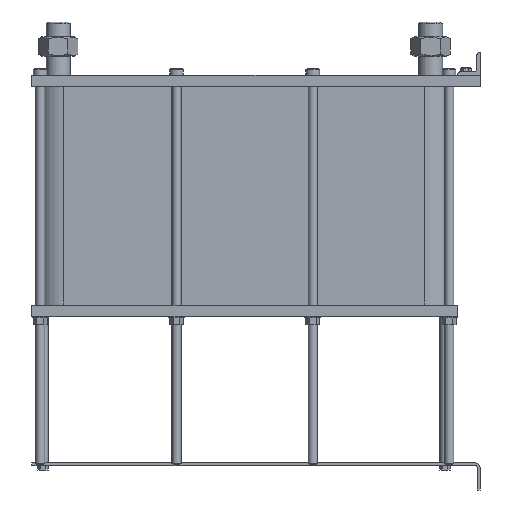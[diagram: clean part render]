
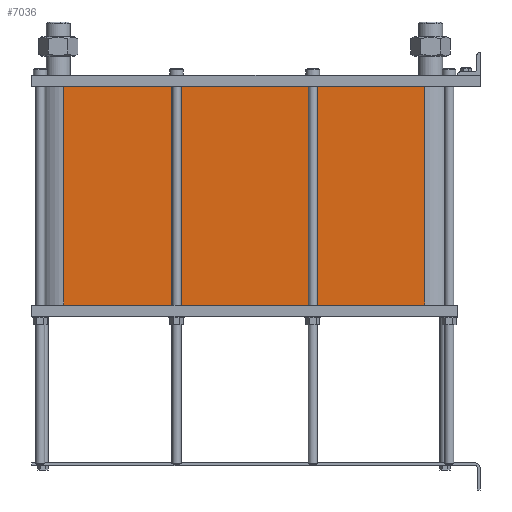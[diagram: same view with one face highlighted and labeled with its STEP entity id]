
A CAD part, left-side view. The second image highlights one B-rep face of the part: STEP entity #7036.
In plain terms, the highlighted planar face has unit normal (-1, 0, 0).
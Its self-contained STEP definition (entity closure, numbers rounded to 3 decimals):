
#999=LINE('',#15640,#1553);
#1031=LINE('',#15723,#1585);
#1032=LINE('',#15726,#1586);
#1033=LINE('',#15727,#1587);
#1553=VECTOR('',#9658,10.);
#1585=VECTOR('',#9736,10.);
#1586=VECTOR('',#9741,10.);
#1587=VECTOR('',#9742,10.);
#2117=FACE_OUTER_BOUND('',#2671,.T.);
#2671=EDGE_LOOP('',(#6246,#6247,#6248,#6249));
#3527=VERTEX_POINT('',#15634);
#3529=VERTEX_POINT('',#15638);
#3556=VERTEX_POINT('',#15720);
#3557=VERTEX_POINT('',#15722);
#4425=EDGE_CURVE('',#3529,#3527,#999,.T.);
#4466=EDGE_CURVE('',#3557,#3556,#1031,.T.);
#4468=EDGE_CURVE('',#3527,#3556,#1032,.T.);
#4469=EDGE_CURVE('',#3557,#3529,#1033,.T.);
#6246=ORIENTED_EDGE('',*,*,#4468,.F.);
#6247=ORIENTED_EDGE('',*,*,#4425,.F.);
#6248=ORIENTED_EDGE('',*,*,#4469,.F.);
#6249=ORIENTED_EDGE('',*,*,#4466,.T.);
#6608=PLANE('',#7812);
#7036=ADVANCED_FACE('',(#2117),#6608,.T.);
#7812=AXIS2_PLACEMENT_3D('',#15725,#9739,#9740);
#9658=DIRECTION('',(0.,0.,-1.));
#9736=DIRECTION('',(0.,0.,-1.));
#9739=DIRECTION('center_axis',(-1.,0.,0.));
#9740=DIRECTION('ref_axis',(0.,1.,0.));
#9741=DIRECTION('',(0.,1.,0.));
#9742=DIRECTION('',(0.,-1.,0.));
#15634=CARTESIAN_POINT('',(-72.,97.5,-384.4));
#15638=CARTESIAN_POINT('',(-72.,97.5,0.));
#15640=CARTESIAN_POINT('',(-72.,97.5,0.));
#15720=CARTESIAN_POINT('',(-72.,733.5,-384.4));
#15722=CARTESIAN_POINT('',(-72.,733.5,0.));
#15723=CARTESIAN_POINT('',(-72.,733.5,0.));
#15725=CARTESIAN_POINT('Origin',(-72.,97.5,0.));
#15726=CARTESIAN_POINT('',(-72.,256.5,-384.4));
#15727=CARTESIAN_POINT('',(-72.,733.5,0.));
